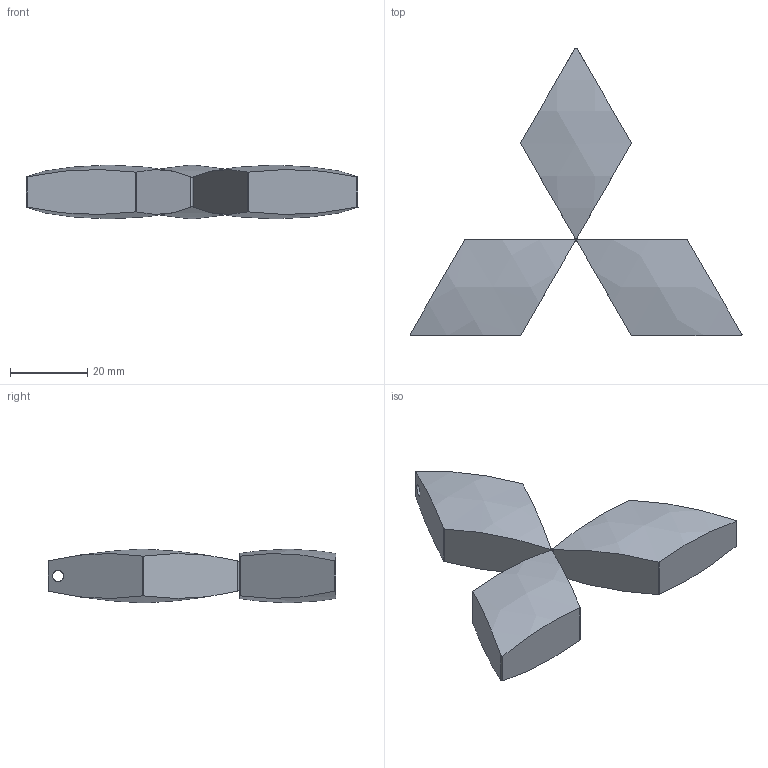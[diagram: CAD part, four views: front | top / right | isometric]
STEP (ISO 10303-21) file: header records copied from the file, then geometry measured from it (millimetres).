
FILE_DESCRIPTION( ( 'STEP AP214' ), '1' );
FILE_NAME( 'G:/Mitsubishi_11.00_0.00_0.00_0.00.stp', ' ', ( ' ' ), ( ' ' ), 'PSStep 15.0.47', 'PARTsolutions', ' ' );
FILE_SCHEMA( ( 'AUTOMOTIVE_DESIGN { 1 0 10303 214 1 1 1 1 }' ) );
Length unit declared in the file: millimetre
Products named in the file (1): _Mitsubishi 11.00,0.00,0.00,0.00
Bounding box: 86.16 x 74.7 x 14 mm (x, y, z)
Volume: 26685.7 mm3; surface area: 8065 mm2
Topology: 1 solids, 1 shells, 43 faces, 100 edges, 59 vertices
Faces by surface type: bspline 18, cylinder 12, plane 12, torus 1
Entity records: 1996 total; most frequent: CARTESIAN_POINT 860, ORIENTED_EDGE 196, DIRECTION 100, EDGE_CURVE 98, B_SPLINE_CURVE_WITH_KNOTS 62, VERTEX_POINT 58, EDGE_LOOP 46, FACE_OUTER_BOUND 44
